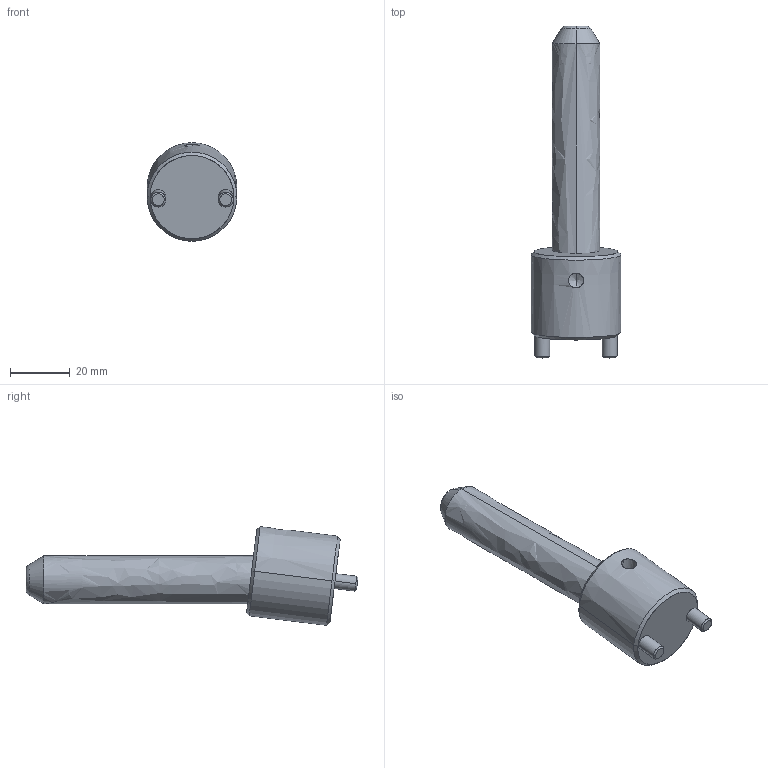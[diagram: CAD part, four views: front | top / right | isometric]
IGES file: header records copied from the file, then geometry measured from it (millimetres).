
Start section: START RECORD GO HERE.
Global section: file name: CI0716075.igs; native system: DASSAULT SYSTEMES CATIA V5 R20 - www.3ds.com; preprocessor: CATIA Version 5 Release 20 ; author: r.borello; organization: CFTORINO; date: 20190620.161410; units: millimetre
Bounding box: 30 x 110.84 x 32.95 mm (x, y, z)
Surface area: 10726.8 mm2 (no closed solid volume)
Topology: 0 solids, 0 shells, 39 faces, 162 edges, 160 vertices
Faces by surface type: revolution 32, plane 7
